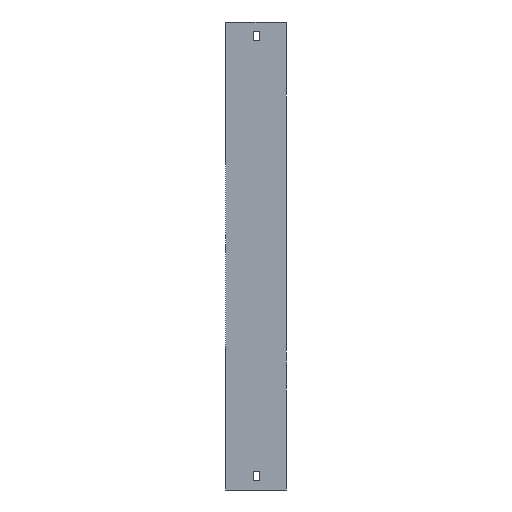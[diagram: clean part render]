
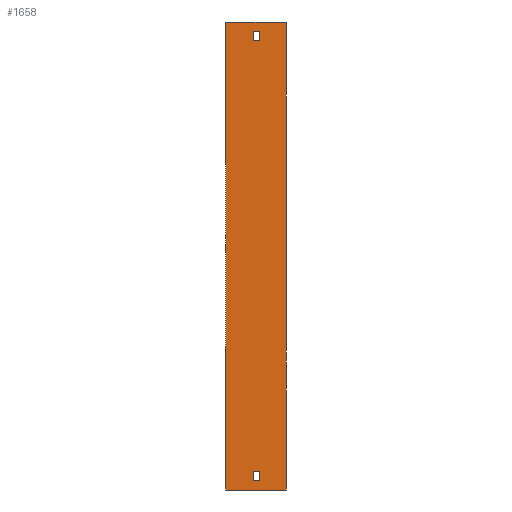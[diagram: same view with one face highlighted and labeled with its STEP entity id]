
A CAD part, left-side view. The second image highlights one B-rep face of the part: STEP entity #1658.
In plain terms, the highlighted planar face has unit normal (-1, 0, 0).
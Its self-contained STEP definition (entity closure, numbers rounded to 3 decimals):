
#8 = CARTESIAN_POINT ( 'NONE',  ( -304., 28.5, 40. ) ) ;
#21 = CARTESIAN_POINT ( 'NONE',  ( -304., 65.5, 50. ) ) ;
#50 = CARTESIAN_POINT ( 'NONE',  ( -304., 28.5, -444. ) ) ;
#71 = DIRECTION ( 'NONE',  ( 0., 0., -1. ) ) ;
#85 = CARTESIAN_POINT ( 'NONE',  ( -304., 28.5, 40. ) ) ;
#94 = CARTESIAN_POINT ( 'NONE',  ( -304., 35.5, 40. ) ) ;
#103 = VERTEX_POINT ( 'NONE', #1549 ) ;
#165 = EDGE_CURVE ( 'NONE', #703, #453, #664, .T. ) ;
#186 = DIRECTION ( 'NONE',  ( 0., -1., 0. ) ) ;
#189 = LINE ( 'NONE', #948, #657 ) ;
#196 = EDGE_LOOP ( 'NONE', ( #1536, #325, #1115, #1025 ) ) ;
#230 = VECTOR ( 'NONE', #1745, 1000. ) ;
#251 = LINE ( 'NONE', #94, #230 ) ;
#279 = EDGE_CURVE ( 'NONE', #1331, #453, #1256, .T. ) ;
#302 = ORIENTED_EDGE ( 'NONE', *, *, #1591, .F. ) ;
#325 = ORIENTED_EDGE ( 'NONE', *, *, #279, .F. ) ;
#329 = EDGE_LOOP ( 'NONE', ( #779, #302, #1892, #1608 ) ) ;
#357 = VERTEX_POINT ( 'NONE', #1597 ) ;
#398 = CARTESIAN_POINT ( 'NONE',  ( -304., 65.5, -454. ) ) ;
#418 = EDGE_CURVE ( 'NONE', #754, #103, #1007, .T. ) ;
#441 = EDGE_CURVE ( 'NONE', #1347, #754, #251, .T. ) ;
#445 = AXIS2_PLACEMENT_3D ( 'NONE', #887, #1178, #1297 ) ;
#453 = VERTEX_POINT ( 'NONE', #1898 ) ;
#486 = VERTEX_POINT ( 'NONE', #875 ) ;
#491 = CARTESIAN_POINT ( 'NONE',  ( -304., 35.5, 40. ) ) ;
#535 = EDGE_CURVE ( 'NONE', #486, #1463, #1606, .T. ) ;
#561 = VECTOR ( 'NONE', #1704, 1000. ) ;
#565 = FACE_OUTER_BOUND ( 'NONE', #196, .T. ) ;
#591 = VECTOR ( 'NONE', #186, 1000. ) ;
#612 = LINE ( 'NONE', #1767, #1268 ) ;
#646 = ORIENTED_EDGE ( 'NONE', *, *, #441, .T. ) ;
#657 = VECTOR ( 'NONE', #71, 1000. ) ;
#664 = LINE ( 'NONE', #1112, #1301 ) ;
#676 = ORIENTED_EDGE ( 'NONE', *, *, #1413, .T. ) ;
#680 = DIRECTION ( 'NONE',  ( 0., 0., 1. ) ) ;
#703 = VERTEX_POINT ( 'NONE', #1863 ) ;
#738 = LINE ( 'NONE', #1605, #1607 ) ;
#743 = FACE_BOUND ( 'NONE', #329, .T. ) ;
#754 = VERTEX_POINT ( 'NONE', #8 ) ;
#760 = DIRECTION ( 'NONE',  ( 0., 0., 1. ) ) ;
#779 = ORIENTED_EDGE ( 'NONE', *, *, #535, .F. ) ;
#828 = EDGE_CURVE ( 'NONE', #1121, #357, #1435, .T. ) ;
#875 = CARTESIAN_POINT ( 'NONE',  ( -304., 35.5, -444. ) ) ;
#887 = CARTESIAN_POINT ( 'NONE',  ( -304., 65.5, -454. ) ) ;
#890 = DIRECTION ( 'NONE',  ( 0., 0., 1. ) ) ;
#893 = EDGE_CURVE ( 'NONE', #1048, #1331, #612, .T. ) ;
#947 = EDGE_LOOP ( 'NONE', ( #676, #646, #1456, #1832 ) ) ;
#948 = CARTESIAN_POINT ( 'NONE',  ( -304., 35.5, -444. ) ) ;
#1007 = LINE ( 'NONE', #85, #561 ) ;
#1020 = PLANE ( 'NONE',  #445 ) ;
#1025 = ORIENTED_EDGE ( 'NONE', *, *, #1692, .T. ) ;
#1048 = VERTEX_POINT ( 'NONE', #1383 ) ;
#1081 = CARTESIAN_POINT ( 'NONE',  ( -304., 35.5, 30. ) ) ;
#1112 = CARTESIAN_POINT ( 'NONE',  ( -304., 0., -454. ) ) ;
#1115 = ORIENTED_EDGE ( 'NONE', *, *, #893, .F. ) ;
#1121 = VERTEX_POINT ( 'NONE', #1556 ) ;
#1161 = LINE ( 'NONE', #398, #1398 ) ;
#1178 = DIRECTION ( 'NONE',  ( 1., 0., 0. ) ) ;
#1180 = CARTESIAN_POINT ( 'NONE',  ( -304., 35.5, 30. ) ) ;
#1213 = VECTOR ( 'NONE', #1560, 1000. ) ;
#1234 = DIRECTION ( 'NONE',  ( 0., 1., 0. ) ) ;
#1247 = DIRECTION ( 'NONE',  ( 0., 0., 1. ) ) ;
#1256 = LINE ( 'NONE', #1526, #591 ) ;
#1268 = VECTOR ( 'NONE', #760, 1000. ) ;
#1274 = EDGE_CURVE ( 'NONE', #1463, #1121, #1533, .T. ) ;
#1297 = DIRECTION ( 'NONE',  ( 0., 0., -1. ) ) ;
#1301 = VECTOR ( 'NONE', #680, 1000. ) ;
#1308 = VECTOR ( 'NONE', #1234, 1000. ) ;
#1310 = FACE_BOUND ( 'NONE', #947, .T. ) ;
#1331 = VERTEX_POINT ( 'NONE', #21 ) ;
#1347 = VERTEX_POINT ( 'NONE', #491 ) ;
#1383 = CARTESIAN_POINT ( 'NONE',  ( -304., 65.5, -454. ) ) ;
#1398 = VECTOR ( 'NONE', #1736, 1000. ) ;
#1413 = EDGE_CURVE ( 'NONE', #1479, #1347, #738, .T. ) ;
#1435 = LINE ( 'NONE', #1887, #1213 ) ;
#1440 = CARTESIAN_POINT ( 'NONE',  ( -304., 28.5, -444. ) ) ;
#1450 = VECTOR ( 'NONE', #1908, 1000. ) ;
#1456 = ORIENTED_EDGE ( 'NONE', *, *, #418, .T. ) ;
#1463 = VERTEX_POINT ( 'NONE', #1440 ) ;
#1479 = VERTEX_POINT ( 'NONE', #1180 ) ;
#1501 = EDGE_CURVE ( 'NONE', #103, #1479, #1930, .T. ) ;
#1526 = CARTESIAN_POINT ( 'NONE',  ( -304., 65.5, 50. ) ) ;
#1533 = LINE ( 'NONE', #50, #1854 ) ;
#1536 = ORIENTED_EDGE ( 'NONE', *, *, #165, .T. ) ;
#1549 = CARTESIAN_POINT ( 'NONE',  ( -304., 28.5, 30. ) ) ;
#1556 = CARTESIAN_POINT ( 'NONE',  ( -304., 28.5, -434. ) ) ;
#1560 = DIRECTION ( 'NONE',  ( 0., 1., 0. ) ) ;
#1591 = EDGE_CURVE ( 'NONE', #357, #486, #189, .T. ) ;
#1597 = CARTESIAN_POINT ( 'NONE',  ( -304., 35.5, -434. ) ) ;
#1605 = CARTESIAN_POINT ( 'NONE',  ( -304., 35.5, 40. ) ) ;
#1606 = LINE ( 'NONE', #1918, #1450 ) ;
#1607 = VECTOR ( 'NONE', #890, 1000. ) ;
#1608 = ORIENTED_EDGE ( 'NONE', *, *, #1274, .F. ) ;
#1658 = ADVANCED_FACE ( 'NONE', ( #565, #1310, #743 ), #1020, .F. ) ;
#1692 = EDGE_CURVE ( 'NONE', #1048, #703, #1161, .T. ) ;
#1704 = DIRECTION ( 'NONE',  ( 0., 0., -1. ) ) ;
#1736 = DIRECTION ( 'NONE',  ( 0., -1., 0. ) ) ;
#1745 = DIRECTION ( 'NONE',  ( 0., -1., 0. ) ) ;
#1767 = CARTESIAN_POINT ( 'NONE',  ( -304., 65.5, -454. ) ) ;
#1832 = ORIENTED_EDGE ( 'NONE', *, *, #1501, .T. ) ;
#1854 = VECTOR ( 'NONE', #1247, 1000. ) ;
#1863 = CARTESIAN_POINT ( 'NONE',  ( -304., 0., -454. ) ) ;
#1887 = CARTESIAN_POINT ( 'NONE',  ( -304., 35.5, -434. ) ) ;
#1892 = ORIENTED_EDGE ( 'NONE', *, *, #828, .F. ) ;
#1898 = CARTESIAN_POINT ( 'NONE',  ( -304., 0., 50. ) ) ;
#1908 = DIRECTION ( 'NONE',  ( 0., -1., 0. ) ) ;
#1918 = CARTESIAN_POINT ( 'NONE',  ( -304., 35.5, -444. ) ) ;
#1930 = LINE ( 'NONE', #1081, #1308 ) ;
